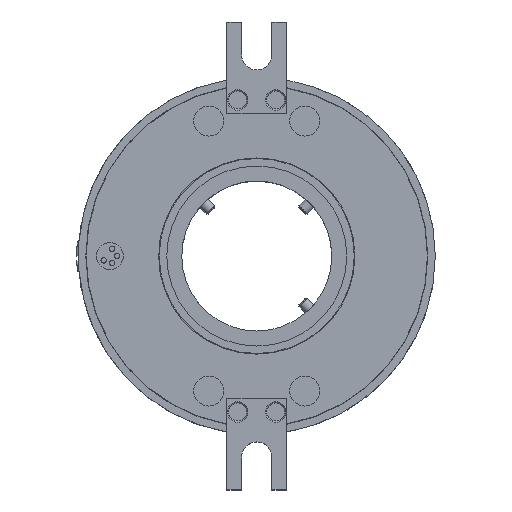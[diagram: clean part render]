
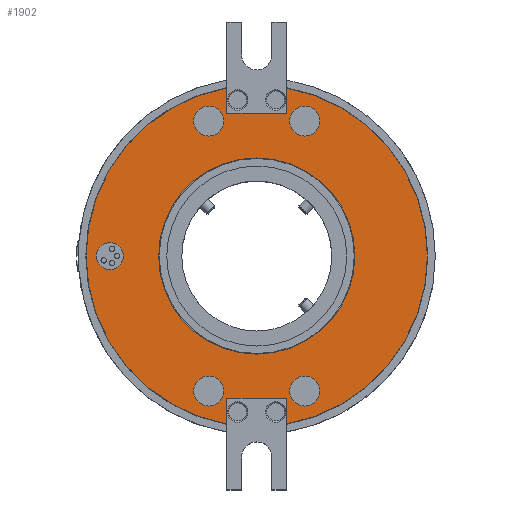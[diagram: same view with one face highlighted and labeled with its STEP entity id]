
A CAD part, top view. The second image highlights one B-rep face of the part: STEP entity #1902.
In plain terms, the highlighted planar face has unit normal (0, 0, 1).
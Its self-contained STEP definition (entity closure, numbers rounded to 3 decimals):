
#218=FACE_BOUND('',#4822,.T.);
#219=FACE_BOUND('',#4823,.T.);
#220=FACE_BOUND('',#4824,.T.);
#221=FACE_BOUND('',#4825,.T.);
#222=FACE_BOUND('',#4826,.T.);
#223=FACE_BOUND('',#4827,.T.);
#224=FACE_BOUND('',#4828,.T.);
#520=CIRCLE('',#16395,56.9);
#521=CIRCLE('',#16396,56.9);
#522=CIRCLE('',#16397,32.7);
#523=CIRCLE('',#16398,5.);
#524=CIRCLE('',#16399,5.);
#525=CIRCLE('',#16400,4.5);
#526=CIRCLE('',#16401,5.);
#527=CIRCLE('',#16402,5.);
#947=PLANE('',#16403);
#1195=LINE('',#30987,#3173);
#1196=LINE('',#30990,#3174);
#1197=LINE('',#30992,#3175);
#1198=LINE('',#30996,#3176);
#1199=LINE('',#30998,#3177);
#1200=LINE('',#31000,#3178);
#1902=ADVANCED_FACE('',(#218,#219,#220,#221,#222,#223,#224),#947,.T.);
#3173=VECTOR('',#17962,1.);
#3174=VECTOR('',#17963,1.);
#3175=VECTOR('',#17964,1.);
#3176=VECTOR('',#17967,1.);
#3177=VECTOR('',#17968,1.);
#3178=VECTOR('',#17969,1.);
#4822=EDGE_LOOP('',(#8053,#8054,#8055,#8056,#8057,#8058,#8059,#8060));
#4823=EDGE_LOOP('',(#8061));
#4824=EDGE_LOOP('',(#8062));
#4825=EDGE_LOOP('',(#8063));
#4826=EDGE_LOOP('',(#8064));
#4827=EDGE_LOOP('',(#8065));
#4828=EDGE_LOOP('',(#8066));
#8053=ORIENTED_EDGE('',*,*,#13178,.F.);
#8054=ORIENTED_EDGE('',*,*,#13179,.F.);
#8055=ORIENTED_EDGE('',*,*,#13180,.F.);
#8056=ORIENTED_EDGE('',*,*,#13181,.F.);
#8057=ORIENTED_EDGE('',*,*,#13182,.F.);
#8058=ORIENTED_EDGE('',*,*,#13183,.F.);
#8059=ORIENTED_EDGE('',*,*,#13184,.F.);
#8060=ORIENTED_EDGE('',*,*,#13185,.F.);
#8061=ORIENTED_EDGE('',*,*,#13186,.F.);
#8062=ORIENTED_EDGE('',*,*,#13187,.T.);
#8063=ORIENTED_EDGE('',*,*,#13188,.T.);
#8064=ORIENTED_EDGE('',*,*,#13189,.T.);
#8065=ORIENTED_EDGE('',*,*,#13190,.T.);
#8066=ORIENTED_EDGE('',*,*,#13191,.T.);
#11044=VERTEX_POINT('',#30988);
#11045=VERTEX_POINT('',#30989);
#11046=VERTEX_POINT('',#30991);
#11047=VERTEX_POINT('',#30993);
#11048=VERTEX_POINT('',#30995);
#11049=VERTEX_POINT('',#30997);
#11050=VERTEX_POINT('',#30999);
#11051=VERTEX_POINT('',#31001);
#11052=VERTEX_POINT('',#31004);
#11053=VERTEX_POINT('',#31006);
#11054=VERTEX_POINT('',#31008);
#11055=VERTEX_POINT('',#31010);
#11056=VERTEX_POINT('',#31012);
#11057=VERTEX_POINT('',#31014);
#13178=EDGE_CURVE('',#11044,#11045,#1195,.T.);
#13179=EDGE_CURVE('',#11046,#11044,#1196,.T.);
#13180=EDGE_CURVE('',#11047,#11046,#1197,.T.);
#13181=EDGE_CURVE('',#11048,#11047,#520,.T.);
#13182=EDGE_CURVE('',#11049,#11048,#1198,.T.);
#13183=EDGE_CURVE('',#11050,#11049,#1199,.T.);
#13184=EDGE_CURVE('',#11051,#11050,#1200,.T.);
#13185=EDGE_CURVE('',#11045,#11051,#521,.T.);
#13186=EDGE_CURVE('',#11052,#11052,#522,.T.);
#13187=EDGE_CURVE('',#11053,#11053,#523,.T.);
#13188=EDGE_CURVE('',#11054,#11054,#524,.T.);
#13189=EDGE_CURVE('',#11055,#11055,#525,.T.);
#13190=EDGE_CURVE('',#11056,#11056,#526,.T.);
#13191=EDGE_CURVE('',#11057,#11057,#527,.T.);
#16395=AXIS2_PLACEMENT_3D('',#30994,#17965,#17966);
#16396=AXIS2_PLACEMENT_3D('',#31002,#17970,#17971);
#16397=AXIS2_PLACEMENT_3D('',#31003,#17972,#17973);
#16398=AXIS2_PLACEMENT_3D('',#31005,#17974,#17975);
#16399=AXIS2_PLACEMENT_3D('',#31007,#17976,#17977);
#16400=AXIS2_PLACEMENT_3D('',#31009,#17978,#17979);
#16401=AXIS2_PLACEMENT_3D('',#31011,#17980,#17981);
#16402=AXIS2_PLACEMENT_3D('',#31013,#17982,#17983);
#16403=AXIS2_PLACEMENT_3D('',#31015,#17984,#17985);
#17962=DIRECTION('',(0.,-1.,0.));
#17963=DIRECTION('',(-1.,0.,0.));
#17964=DIRECTION('',(0.,1.,0.));
#17965=DIRECTION('',(0.,0.,-1.));
#17966=DIRECTION('',(1.,0.,0.));
#17967=DIRECTION('',(0.,1.,0.));
#17968=DIRECTION('',(1.,0.,0.));
#17969=DIRECTION('',(0.,-1.,0.));
#17970=DIRECTION('',(0.,0.,-1.));
#17971=DIRECTION('',(1.,0.,0.));
#17972=DIRECTION('',(0.,0.,1.));
#17973=DIRECTION('',(1.,0.,0.));
#17974=DIRECTION('',(0.,0.,-1.));
#17975=DIRECTION('',(1.,0.,0.));
#17976=DIRECTION('',(0.,0.,-1.));
#17977=DIRECTION('',(1.,0.,0.));
#17978=DIRECTION('',(0.,0.,-1.));
#17979=DIRECTION('',(1.,0.,0.));
#17980=DIRECTION('',(0.,0.,-1.));
#17981=DIRECTION('',(-1.,0.,0.));
#17982=DIRECTION('',(0.,0.,-1.));
#17983=DIRECTION('',(-1.,0.,0.));
#17984=DIRECTION('',(0.,0.,1.));
#17985=DIRECTION('',(1.,0.,0.));
#30987=CARTESIAN_POINT('',(-10.,-62.75,46.5));
#30988=CARTESIAN_POINT('',(-10.,-47.5,46.5));
#30989=CARTESIAN_POINT('',(-10.,-56.014,46.5));
#30990=CARTESIAN_POINT('',(0.,-47.5,46.5));
#30991=CARTESIAN_POINT('',(10.,-47.5,46.5));
#30992=CARTESIAN_POINT('',(10.,-62.75,46.5));
#30993=CARTESIAN_POINT('',(10.,-56.014,46.5));
#30994=CARTESIAN_POINT('',(0.,0.,46.5));
#30995=CARTESIAN_POINT('',(10.,56.014,46.5));
#30996=CARTESIAN_POINT('',(10.,62.75,46.5));
#30997=CARTESIAN_POINT('',(10.,47.5,46.5));
#30998=CARTESIAN_POINT('',(0.,47.5,46.5));
#30999=CARTESIAN_POINT('',(-10.,47.5,46.5));
#31000=CARTESIAN_POINT('',(-10.,62.75,46.5));
#31001=CARTESIAN_POINT('',(-10.,56.014,46.5));
#31002=CARTESIAN_POINT('',(0.,0.,46.5));
#31003=CARTESIAN_POINT('',(0.,0.,46.5));
#31004=CARTESIAN_POINT('',(32.7,0.,46.5));
#31005=CARTESIAN_POINT('',(16.,-45.,46.5));
#31006=CARTESIAN_POINT('',(21.,-45.,46.5));
#31007=CARTESIAN_POINT('',(-16.,-45.,46.5));
#31008=CARTESIAN_POINT('',(-11.,-45.,46.5));
#31009=CARTESIAN_POINT('',(-49.,0.,46.5));
#31010=CARTESIAN_POINT('',(-44.5,0.,46.5));
#31011=CARTESIAN_POINT('',(16.,45.,46.5));
#31012=CARTESIAN_POINT('',(11.,45.,46.5));
#31013=CARTESIAN_POINT('',(-16.,45.,46.5));
#31014=CARTESIAN_POINT('',(-21.,45.,46.5));
#31015=CARTESIAN_POINT('',(0.,0.,46.5));
